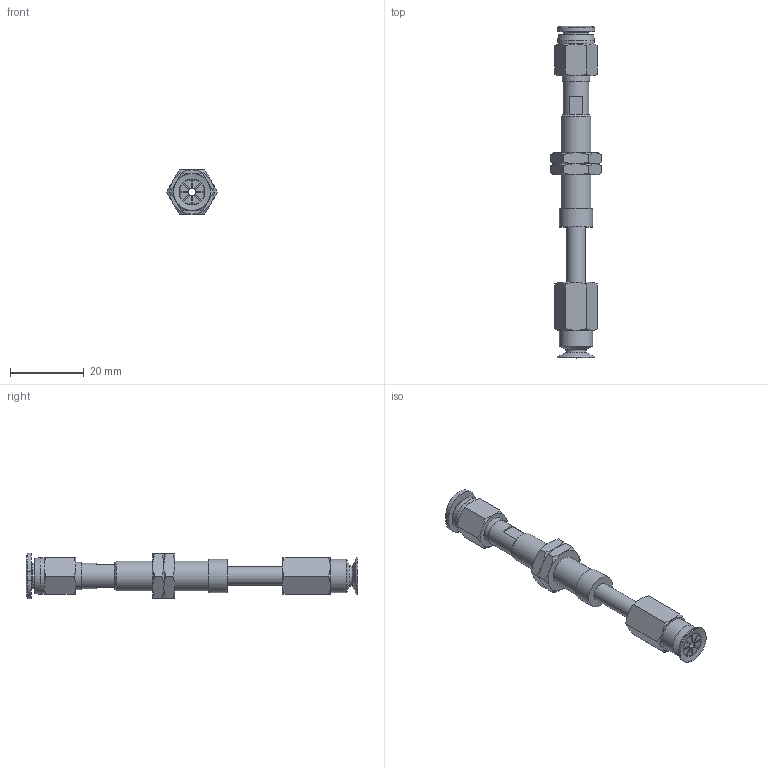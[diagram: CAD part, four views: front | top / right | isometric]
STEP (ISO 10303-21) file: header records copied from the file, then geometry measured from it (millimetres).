
FILE_DESCRIPTION(('STEP AP203'),'1');
FILE_NAME('-O.stp','2025-08-26T08:44:10',(' '),(' '),'Spatial InterOp 3D',' ',' ');
FILE_SCHEMA(('CONFIG_CONTROL_DESIGN'));
Length unit declared in the file: millimetre
Products named in the file (7): BNABPATS-10B-15-※-O; ADAPTER; NAPATS-10A-15--M; NAPATS-10A-15--F; Nut-10A-S; BPAG-10B-※_3D; PC-C_06-M5
Assembly tree (7 placements, depth 2):
  BNABPATS-10B-15-※-O
    ADAPTER
    NAPATS-10A-15--M
    NAPATS-10A-15--F
    Nut-10A-S  x2
    BPAG-10B-※_3D
    PC-C_06-M5
Bounding box: 13.86 x 89.98 x 12.4 mm (x, y, z)
Volume: 3957.2 mm3; surface area: 5790.5 mm2
Topology: 6 solids, 9 shells, 198 faces, 436 edges, 268 vertices
Faces by surface type: plane 82, cone 62, cylinder 34, torus 13, bspline 4, revolution 3
Full cylindrical faces by diameter (mm): 2 x3, 4 x4, 4.134 x1, 5 x3, 6 x2, 7 x3, 7.188 x2, 7.4 x1, 8 x1, 8.2 x1, 9 x2, 10 x1
Entity records: 5274 total; most frequent: CARTESIAN_POINT 1378, DIRECTION 749, ORIENTED_EDGE 652, EDGE_CURVE 328, AXIS2_PLACEMENT_3D 321, EDGE_LOOP 250, VERTEX_POINT 230, FACE_OUTER_BOUND 151
